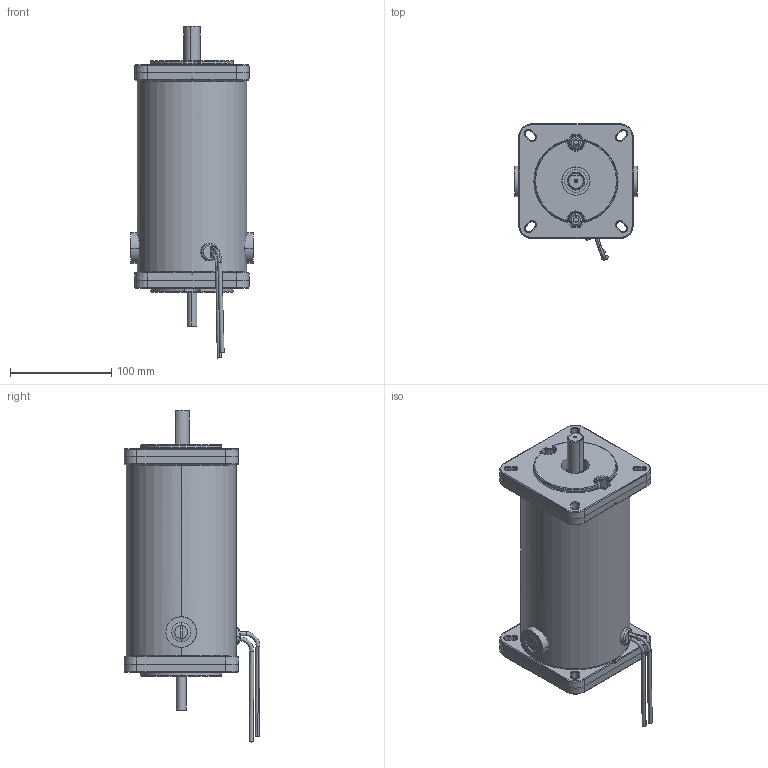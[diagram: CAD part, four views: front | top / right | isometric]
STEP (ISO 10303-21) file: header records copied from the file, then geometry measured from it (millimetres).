
FILE_DESCRIPTION (( 'STEP AP203' ), '1' );
FILE_NAME ('PM10818.STEP', '2010-06-21T19:52:58', ( 'GG Install' ), ( 'Groschopp' ), 'SwSTEP 2.0', 'SolidWorks 2010', '' );
FILE_SCHEMA (( 'CONFIG_CONTROL_DESIGN' ));
Length unit declared in the file: inch
Products named in the file (1): PM10818
Bounding box: 120.83 x 133.91 x 327.17 mm (x, y, z)
Volume: 925124 mm3; surface area: 258311.3 mm2
Topology: 16 solids, 25 shells, 1420 faces, 3509 edges, 2132 vertices
Faces by surface type: cylinder 356, plane 326, torus 307, cone 229, bspline 162, sphere 40
Entity records: 49946 total; most frequent: CARTESIAN_POINT 17106, DIRECTION 7045, ORIENTED_EDGE 6890, EDGE_CURVE 3445, AXIS2_PLACEMENT_3D 2995, VERTEX_POINT 2108, CIRCLE 1736, EDGE_LOOP 1525
